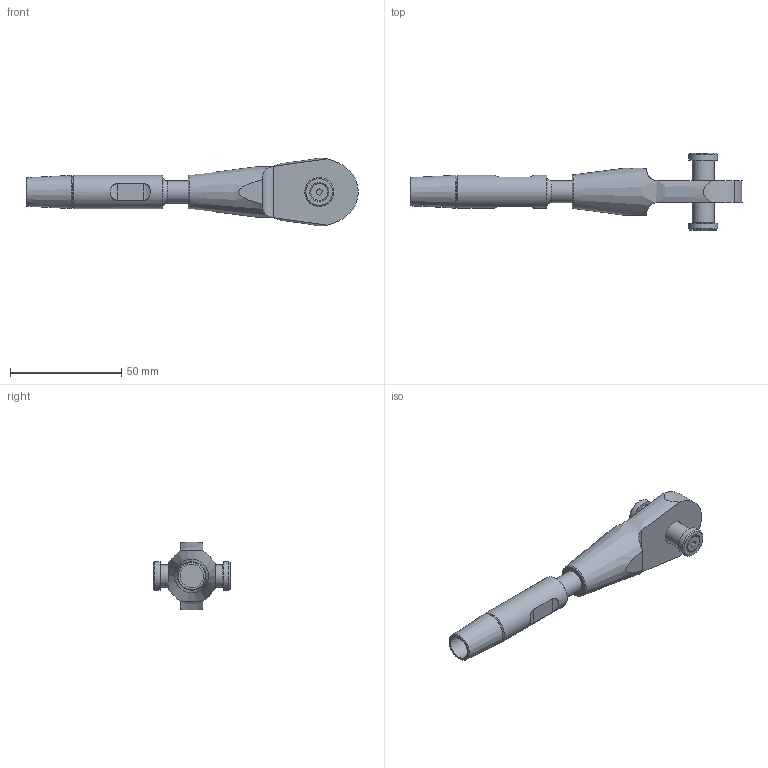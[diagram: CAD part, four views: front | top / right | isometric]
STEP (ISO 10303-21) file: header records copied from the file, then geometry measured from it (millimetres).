
FILE_DESCRIPTION(/* description */ (''),/* implementation_level */ '2;1');
FILE_NAME(/* name */ 'C:\Vault_WS\Designs\SB\01-PX\Verzinkt\ZSS\520 - Zusambau-OES-ADA\520-010-OES-ADA.stp',/* time_stamp */ '2020-10-07T15:31:33+02:00',/* author */ ('schwarz'),/* organization */ (''),/* preprocessor_version */ 'ST-DEVELOPER v18.1',/* originating_system */ 'Autodesk Inventor 2020',/* authorisation */ '');
FILE_SCHEMA (('AUTOMOTIVE_DESIGN { 1 0 10303 214 3 1 1 }'));
Length unit declared in the file: millimetre
Products named in the file (1): 520-010-OES-ADA-Kunde
Bounding box: 149.45 x 34.78 x 30.54 mm (x, y, z)
Volume: 34654.3 mm3; surface area: 12585.8 mm2
Topology: 6 solids, 6 shells, 63 faces, 152 edges, 106 vertices
Faces by surface type: plane 28, cylinder 20, cone 13, torus 2
Full cylindrical faces by diameter (mm): 3.242 x1, 4 x1, 4.5 x1, 7.53 x1, 10 x2, 10.5 x1, 11 x1, 13 x2, 15 x1
Entity records: 2149 total; most frequent: CARTESIAN_POINT 524, DIRECTION 316, ORIENTED_EDGE 300, EDGE_CURVE 150, AXIS2_PLACEMENT_3D 132, VERTEX_POINT 106, EDGE_LOOP 74, STYLED_ITEM 69
